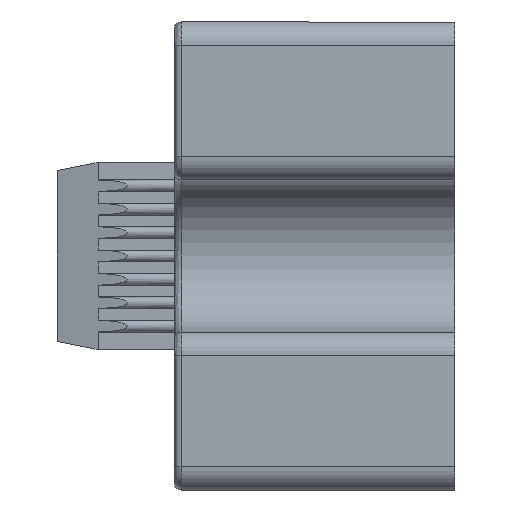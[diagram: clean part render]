
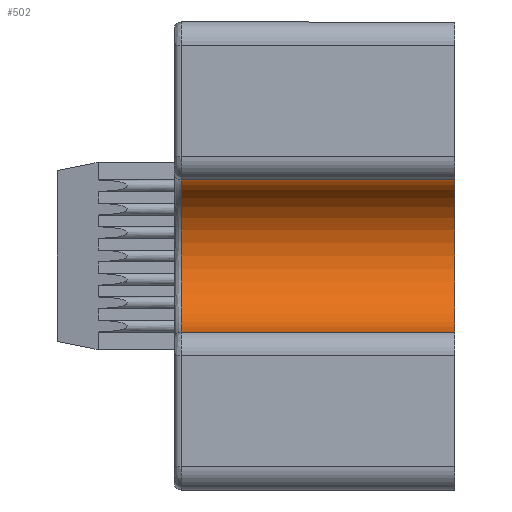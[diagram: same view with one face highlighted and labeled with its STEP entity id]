
A CAD part, left-side view. The second image highlights one B-rep face of the part: STEP entity #502.
In plain terms, the highlighted cylindrical face has radius 3.25 mm (diameter 6.5 mm), a partial arc.
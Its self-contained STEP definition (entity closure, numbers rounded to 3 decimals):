
#6 = DIRECTION ( 'NONE',  ( 0., 0., -1. ) ) ;
#98 = VERTEX_POINT ( 'NONE', #3145 ) ;
#502 = ADVANCED_FACE ( 'NONE', ( #6826 ), #3264, .F. ) ;
#1853 = VERTEX_POINT ( 'NONE', #25805 ) ;
#2024 = ORIENTED_EDGE ( 'NONE', *, *, #13443, .T. ) ;
#2758 = LINE ( 'NONE', #25768, #19498 ) ;
#3145 = CARTESIAN_POINT ( 'NONE',  ( -99.25, -0.3, 3.25 ) ) ;
#3264 = CYLINDRICAL_SURFACE ( 'NONE', #16327, 3.25 ) ;
#3287 = EDGE_LOOP ( 'NONE', ( #14640, #2024, #6509, #18290 ) ) ;
#3732 = VECTOR ( 'NONE', #16306, 1000. ) ;
#4716 = VERTEX_POINT ( 'NONE', #8967 ) ;
#4721 = CARTESIAN_POINT ( 'NONE',  ( -99.25, -12., 3.25 ) ) ;
#5032 = DIRECTION ( 'NONE',  ( 0., -1., 0. ) ) ;
#6431 = DIRECTION ( 'NONE',  ( 0., 1., 0. ) ) ;
#6509 = ORIENTED_EDGE ( 'NONE', *, *, #23278, .F. ) ;
#6826 = FACE_OUTER_BOUND ( 'NONE', #3287, .T. ) ;
#8510 = CARTESIAN_POINT ( 'NONE',  ( -99.25, -0.3, 0. ) ) ;
#8533 = CARTESIAN_POINT ( 'NONE',  ( -99.25, -12., 0. ) ) ;
#8967 = CARTESIAN_POINT ( 'NONE',  ( -99.25, -12., -3.25 ) ) ;
#11881 = AXIS2_PLACEMENT_3D ( 'NONE', #8533, #25486, #17004 ) ;
#12606 = CARTESIAN_POINT ( 'NONE',  ( -99.25, -0.3, -3.25 ) ) ;
#12677 = CIRCLE ( 'NONE', #12978, 3.25 ) ;
#12978 = AXIS2_PLACEMENT_3D ( 'NONE', #8510, #18994, #6 ) ;
#13443 = EDGE_CURVE ( 'NONE', #26099, #4716, #2758, .T. ) ;
#14640 = ORIENTED_EDGE ( 'NONE', *, *, #17014, .F. ) ;
#16306 = DIRECTION ( 'NONE',  ( 0., -1., 0. ) ) ;
#16327 = AXIS2_PLACEMENT_3D ( 'NONE', #23327, #6431, #21047 ) ;
#17004 = DIRECTION ( 'NONE',  ( 0., 0., 1. ) ) ;
#17014 = EDGE_CURVE ( 'NONE', #26099, #98, #12677, .T. ) ;
#17923 = CIRCLE ( 'NONE', #11881, 3.25 ) ;
#18290 = ORIENTED_EDGE ( 'NONE', *, *, #24025, .F. ) ;
#18994 = DIRECTION ( 'NONE',  ( 0., -1., 0. ) ) ;
#19161 = LINE ( 'NONE', #4721, #3732 ) ;
#19498 = VECTOR ( 'NONE', #5032, 1000. ) ;
#21047 = DIRECTION ( 'NONE',  ( 0., 0., 1. ) ) ;
#23278 = EDGE_CURVE ( 'NONE', #1853, #4716, #17923, .T. ) ;
#23327 = CARTESIAN_POINT ( 'NONE',  ( -99.25, -12., 0. ) ) ;
#24025 = EDGE_CURVE ( 'NONE', #98, #1853, #19161, .T. ) ;
#25486 = DIRECTION ( 'NONE',  ( 0., 1., 0. ) ) ;
#25768 = CARTESIAN_POINT ( 'NONE',  ( -99.25, -12., -3.25 ) ) ;
#25805 = CARTESIAN_POINT ( 'NONE',  ( -99.25, -12., 3.25 ) ) ;
#26099 = VERTEX_POINT ( 'NONE', #12606 ) ;
